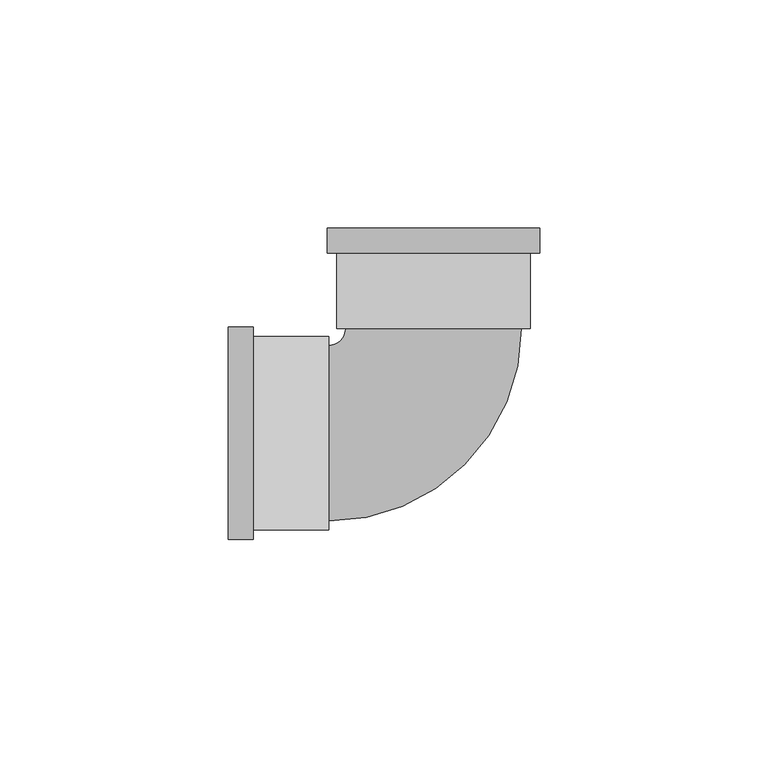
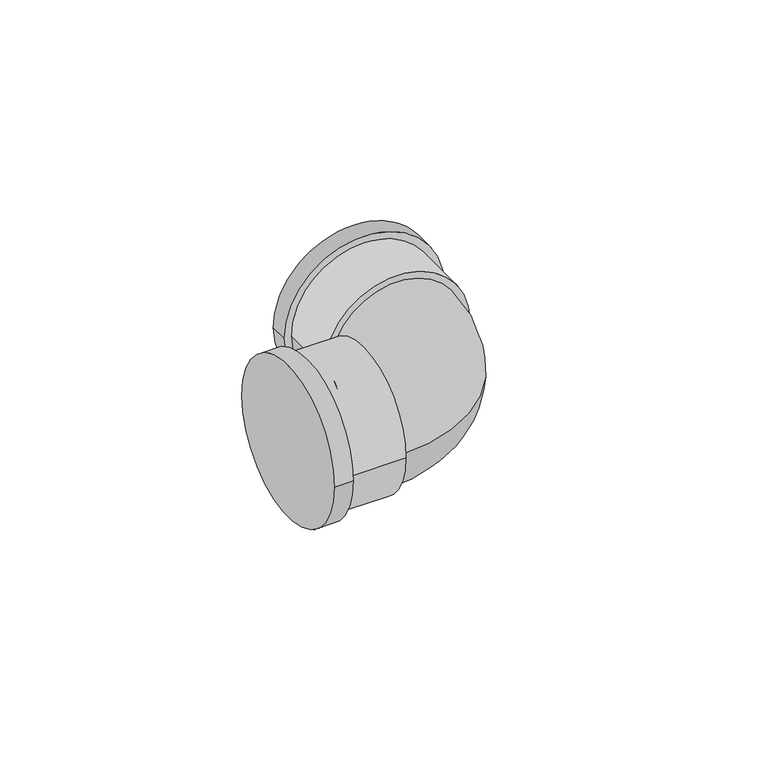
"""IFC4 building model written with IfcOpenShell, lengths in millimetres: pipe fitting geometry, Cotovelo - PVC - CW : Padrão."""

from ifc_helpers import new_model, si_unit, point, frame, origin, place, context, project, spatial, circle_curve, ellipse_curve, trimmed, source, transform, mapped, element, save
from ifc_brep_helpers import plane_surface, cylinder_surface, revolved_surface, advanced_brep


def pipe_fitting_9aea3abe(model_context):
    return source(origin(), model_context, "Body", "AdvancedBrep", [
        advanced_brep(
        [(-45.0007528, -23.2925, 0.0), (-45.0007528, 23.2925, 0.0), (-39.5007528, -23.2925, 0.0), (-39.5007528, 23.2925, 0.0), (-39.5007528, -21.175, 0.0), (-39.5007528, 21.175, 0.0), (-23.0007528, 21.175, 0.0), (-23.0007528, -21.175, 0.0), (-23.0007528, -19.25, 0.0), (-23.0007528, 19.25, 0.0), (-19.2507528, 23.0001227, 0.0), (19.2492472, 23.0013829, 0.0), (21.1742472, 23.0014459, 0.0), (-21.1757528, 23.0000597, 0.0), (-23.2939729, 44.9999904, 0.0), (23.2910271, 45.0015152, 0.0), (21.1737071, 39.5014459, 0.0), (-21.1762929, 39.5000597, 0.0), (-23.2937929, 39.4999904, 0.0), (23.2912071, 39.5015152, 0.0)],
        [
            (0, 1, circle_curve(frame((-45.0007528, 0.0, 0.0), z_axis=(-1.0, 0.0, 0.0), x_axis=(0.0, 1.0, 0.0)), 23.2925)),
            (1, 0, circle_curve(frame((-45.0007528, 0.0, 0.0), z_axis=(-1.0, 0.0, 0.0), x_axis=(0.0, 1.0, 0.0)), 23.2925)),
            (2, 3, circle_curve(frame((-39.5007528, 0.0, 0.0), z_axis=(1.0, 0.0, 0.0), x_axis=(0.0, 1.0, 0.0)), 23.2925)),
            (3, 2, circle_curve(frame((-39.5007528, 0.0, 0.0), z_axis=(1.0, 0.0, 0.0), x_axis=(0.0, 1.0, 0.0)), 23.2925)),
            (4, 5, circle_curve(frame((-39.5007528, 0.0, 0.0), z_axis=(-1.0, 0.0, 0.0), x_axis=(0.0, -1.0, 0.0)), 21.175)),
            (5, 4, circle_curve(frame((-39.5007528, 0.0, 0.0), z_axis=(-1.0, 0.0, 0.0), x_axis=(0.0, -1.0, 0.0)), 21.175)),
            (0, 2),
            (3, 1),
            (6, 7, circle_curve(frame((-23.0007528, 0.0, 0.0), z_axis=(1.0, 0.0, 0.0), x_axis=(0.0, -1.0, 0.0)), 21.175)),
            (7, 6, circle_curve(frame((-23.0007528, 0.0, 0.0), z_axis=(1.0, 0.0, 0.0), x_axis=(0.0, -1.0, 0.0)), 21.175)),
            (8, 9, circle_curve(frame((-23.0007528, 0.0, 0.0), z_axis=(-1.0, 0.0, 0.0), x_axis=(0.0, 1.0, 0.0)), 19.25)),
            (9, 8, circle_curve(frame((-23.0007528, 0.0, 0.0), z_axis=(-1.0, 0.0, 0.0), x_axis=(0.0, 1.0, 0.0)), 19.25)),
            (6, 5),
            (4, 7),
            (10, 9, circle_curve(frame((-23.0007528, 23.0, 0.0), z_axis=(0.0, 0.0, -1.0), x_axis=(0.0, -1.0, 0.0)), 3.75)),
            (8, 11, circle_curve(frame((-23.0007528, 23.0, 0.0), z_axis=(0.0, 0.0, 1.0), x_axis=(0.0, -1.0, 0.0)), 42.25)),
            (11, 10, circle_curve(frame((-0.0007528, 23.0007528, 0.0), z_axis=(3.2730974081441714e-05, -0.9999999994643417, 0.0), x_axis=(-0.9999999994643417, -3.2730974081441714e-05, 0.0)), 19.25)),
            (10, 11, circle_curve(frame((-0.0007528, 23.0007528, 0.0), z_axis=(3.2730974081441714e-05, -0.9999999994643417, 0.0), x_axis=(-0.9999999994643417, -3.2730974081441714e-05, 0.0)), 19.25)),
            (12, 13, circle_curve(frame((-0.0007528, 23.0007528, 0.0), z_axis=(3.2730974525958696e-05, -0.9999999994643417, 0.0), x_axis=(-0.9999999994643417, -3.2730974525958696e-05, 0.0)), 21.175)),
            (13, 12, circle_curve(frame((-0.0007528, 23.0007528, 0.0), z_axis=(3.2730974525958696e-05, -0.9999999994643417, 0.0), x_axis=(-0.9999999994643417, -3.2730974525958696e-05, 0.0)), 21.175)),
            (14, 15, circle_curve(frame((-0.0014729, 45.0007528, 0.0), z_axis=(-3.273097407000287e-05, 0.9999999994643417, 0.0), x_axis=(0.9999999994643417, 3.273097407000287e-05, 0.0)), 23.2925)),
            (15, 14, circle_curve(frame((-0.0014729, 45.0007528, 0.0), z_axis=(-3.273097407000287e-05, 0.9999999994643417, 0.0), x_axis=(0.9999999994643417, 3.273097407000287e-05, 0.0)), 23.2925)),
            (12, 16),
            (16, 17, circle_curve(frame((-0.0012929, 39.5007528, 0.0), z_axis=(3.2730974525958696e-05, -0.9999999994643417, 0.0), x_axis=(-0.9999999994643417, -3.2730974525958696e-05, 0.0)), 21.175)),
            (17, 13),
            (17, 16, circle_curve(frame((-0.0012929, 39.5007528, 0.0), z_axis=(3.2730974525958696e-05, -0.9999999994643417, 0.0), x_axis=(-0.9999999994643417, -3.2730974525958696e-05, 0.0)), 21.175)),
            (18, 19, circle_curve(frame((-0.0012929, 39.5007528, 0.0), z_axis=(3.273097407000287e-05, -0.9999999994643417, 0.0), x_axis=(0.9999999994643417, 3.273097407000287e-05, 0.0)), 23.2925)),
            (19, 18, circle_curve(frame((-0.0012929, 39.5007528, 0.0), z_axis=(3.273097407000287e-05, -0.9999999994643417, 0.0), x_axis=(0.9999999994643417, 3.273097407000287e-05, 0.0)), 23.2925)),
            (14, 18),
            (19, 15),
        ],
        [
            plane_surface(frame((-45.0007528, 0.0, 0.0), z_axis=(-1.0, 0.0, 0.0), x_axis=(0.0, 0.0, 1.0))),
            plane_surface(frame((-39.5007528, 0.0, 0.0), z_axis=(1.0, 0.0, 0.0), x_axis=(0.0, 0.0, 1.0))),
            cylinder_surface(frame((-45.0007528, 0.0, 0.0), z_axis=(-1.0, 0.0, 0.0), x_axis=(0.0, 1.0, 0.0)), 23.2925),
            plane_surface(frame((-23.0007528, 0.0, 0.0), z_axis=(1.0, 0.0, 0.0), x_axis=(0.0, 0.0, 1.0))),
            cylinder_surface(frame((-23.0007528, 0.0, 0.0), z_axis=(1.0, 0.0, 0.0), x_axis=(0.0, -1.0, 0.0)), 21.175),
            revolved_surface(trimmed(ellipse_curve(frame((-23.0007528, 0.0, 0.0), z_axis=(-1.0, 0.0, 0.0), x_axis=(0.0, 1.0, 0.0)), 19.25, 19.25), [point((-23.0007528, -19.25, 0.0))], [point((-23.0007528, 19.25, 0.0))], True, "CARTESIAN"), (-23.0007528, 23.0, 0.0), (0.0, 0.0, 1.0)),
            revolved_surface(trimmed(ellipse_curve(frame((-23.0007528, 0.0, 0.0), z_axis=(-1.0, 0.0, 0.0), x_axis=(0.0, 1.0, 0.0)), 19.25, 19.25), [point((-23.0007528, 19.25, 0.0))], [point((-23.0007528, -19.25, 0.0))], True, "CARTESIAN"), (-23.0007528, 23.0, 0.0), (0.0, 0.0, 1.0)),
            plane_surface(frame((-0.0007528, 23.0007528, 0.0), z_axis=(3.2730974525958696e-05, -0.9999999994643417, 0.0), x_axis=(0.0, 0.0, 1.0))),
            plane_surface(frame((-0.0014729, 45.0007528, 0.0), z_axis=(-3.2730974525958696e-05, 0.9999999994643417, 0.0), x_axis=(0.0, 0.0, 1.0))),
            cylinder_surface(frame((-0.0007528, 23.0007528, 0.0), z_axis=(3.2730974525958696e-05, -0.9999999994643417, 0.0), x_axis=(-0.9999999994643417, -3.2730974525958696e-05, 0.0)), 21.175),
            plane_surface(frame((-0.0012929, 39.5007528, 0.0), z_axis=(3.273097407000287e-05, -0.9999999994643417, 0.0), x_axis=(0.0, 0.0, 1.0))),
            cylinder_surface(frame((-0.0014729, 45.0007528, 0.0), z_axis=(-3.273097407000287e-05, 0.9999999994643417, 0.0), x_axis=(0.9999999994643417, 3.273097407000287e-05, 0.0)), 23.2925),
        ],
        [
            (0, [[1, 2]]),
            (1, [[3, 4], [5, 6]]),
            (2, [[-1, 7, -4, 8]]),
            (2, [[-2, -8, -3, -7]]),
            (3, [[9, 10], [11, 12]]),
            (4, [[-9, 13, -5, 14]]),
            (4, [[-10, -14, -6, -13]]),
            (5, [[15, -11, 16, 17]]),
            (6, [[-15, 18, -16, -12]]),
            (7, [[19, 20], [-17, -18]]),
            (8, [[21, 22]]),
            (9, [[-19, 23, 24, 25]]),
            (9, [[-20, -25, 26, -23]]),
            (10, [[27, 28], [-24, -26]]),
            (11, [[-21, 29, -28, 30]]),
            (11, [[-22, -30, -27, -29]]),
        ],
    ),
    ])


if __name__ == "__main__":
    model = new_model("IFC4")
    model_context = context("Model", 3, world=origin())
    ifc_project = project(units=[si_unit("LENGTHUNIT", "METRE", prefix="MILLI")], contexts=[model_context])
    site = spatial("IfcSite", under=ifc_project)
    building = spatial("IfcBuilding", under=site)
    placement = place(None, origin())
    pipe_fitting_shape = pipe_fitting_9aea3abe(model_context)
    element("IfcPipeFitting", 1, ObjectType="Cotovelo - PVC - CW : Padrão", at=placement, inside=building, context=model_context, shape_type="MappedRepresentation", body=[
        mapped(pipe_fitting_shape, transform((0.0, 0.0, 0.0), x_axis=(1.0, 0.0, 0.0), y_axis=(0.0, 1.0, 0.0), z_axis=(0.0, 0.0, 1.0))),
    ])
    save(model, "model.ifc")
